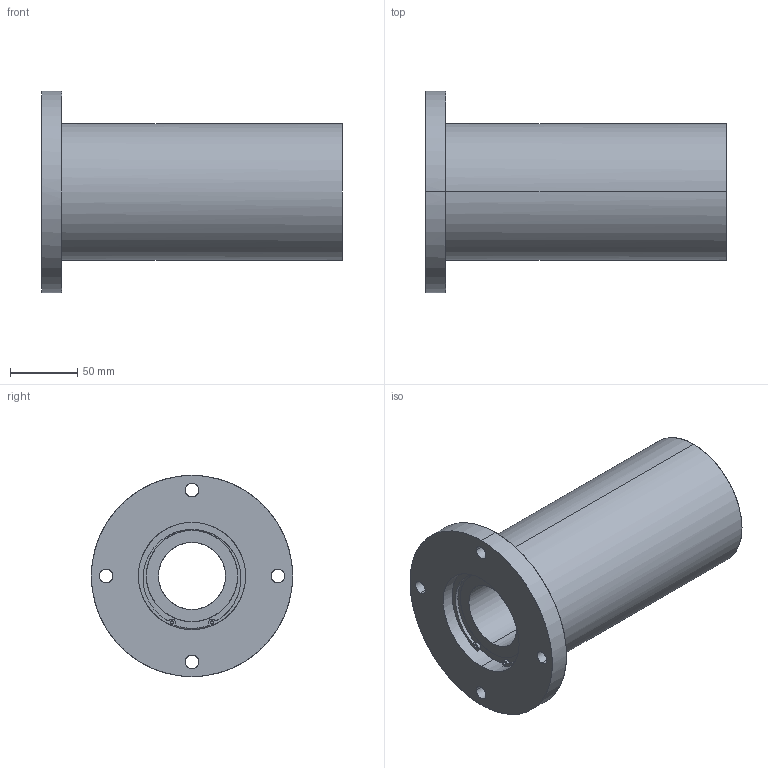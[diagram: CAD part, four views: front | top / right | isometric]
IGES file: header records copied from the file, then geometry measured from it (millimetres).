
Global section: file name: No Iges File Name specified; native system: AutoDesk Inventor R10; preprocessor: AutoDesk Inventor Iges Exporter R10; author: No Author specified; organization: No Organization specified; date: 20101214.134933; units: millimetre
Bounding box: 224 x 150 x 150 mm (x, y, z)
Surface area: 160941.9 mm2 (no closed solid volume)
Topology: 0 solids, 0 shells, 101 faces, 744 edges, 744 vertices
Faces by surface type: bspline 101
